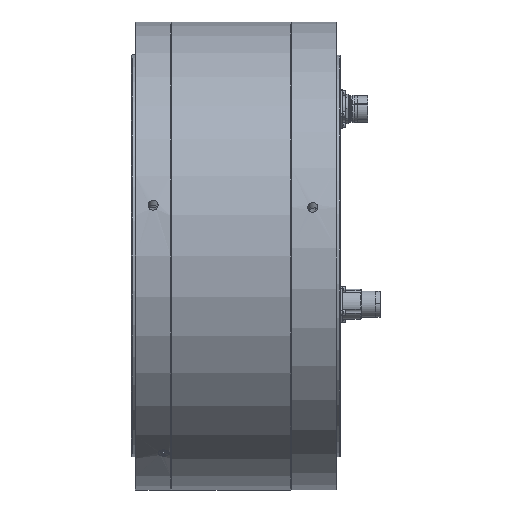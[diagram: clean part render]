
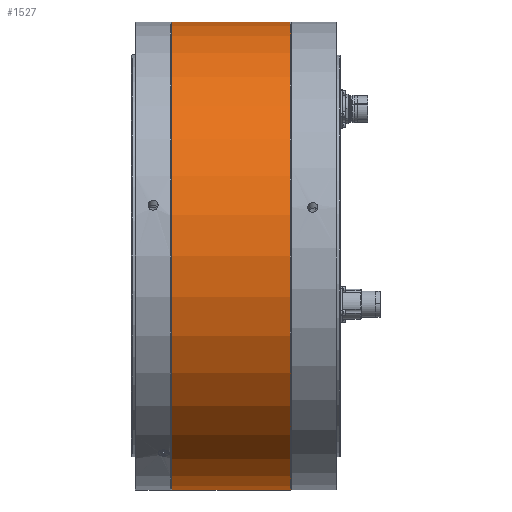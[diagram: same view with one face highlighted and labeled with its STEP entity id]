
A CAD part, front view. The second image highlights one B-rep face of the part: STEP entity #1527.
In plain terms, the highlighted cylindrical face has radius 195 mm (diameter 390 mm), a full revolution.
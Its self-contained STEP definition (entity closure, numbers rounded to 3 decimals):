
#1527 = ADVANCED_FACE( '', ( #3196, #3197 ), #3198, .T. );
#3196 = FACE_OUTER_BOUND( '', #5650, .T. );
#3197 = FACE_OUTER_BOUND( '', #5651, .T. );
#3198 = CYLINDRICAL_SURFACE( '', #5652, 195. );
#5650 = EDGE_LOOP( '', ( #8801 ) );
#5651 = EDGE_LOOP( '', ( #8802 ) );
#5652 = AXIS2_PLACEMENT_3D( '', #8803, #8804, #8805 );
#8801 = ORIENTED_EDGE( '', *, *, #12365, .T. );
#8802 = ORIENTED_EDGE( '', *, *, #12127, .T. );
#8803 = CARTESIAN_POINT( '', ( -60., 0., 0. ) );
#8804 = DIRECTION( '', ( 1., 0., 0. ) );
#8805 = DIRECTION( '', ( 0., 0., 1. ) );
#12127 = EDGE_CURVE( '', #14848, #14848, #14849, .F. );
#12365 = EDGE_CURVE( '', #15227, #15227, #15228, .F. );
#14848 = VERTEX_POINT( '', #17381 );
#14849 = CIRCLE( '', #17382, 195. );
#15227 = VERTEX_POINT( '', #17927 );
#15228 = CIRCLE( '', #17928, 195. );
#17381 = CARTESIAN_POINT( '', ( 99.5, 0., -195. ) );
#17382 = AXIS2_PLACEMENT_3D( '', #20260, #20261, #20262 );
#17927 = CARTESIAN_POINT( '', ( 0.5, 0., 195. ) );
#17928 = AXIS2_PLACEMENT_3D( '', #20649, #20650, #20651 );
#20260 = CARTESIAN_POINT( '', ( 99.5, 0., 0. ) );
#20261 = DIRECTION( '', ( 1., 0., 0. ) );
#20262 = DIRECTION( '', ( 0., 0., -1. ) );
#20649 = CARTESIAN_POINT( '', ( 0.5, 0., 0. ) );
#20650 = DIRECTION( '', ( -1., 0., 0. ) );
#20651 = DIRECTION( '', ( 0., 0., 1. ) );
